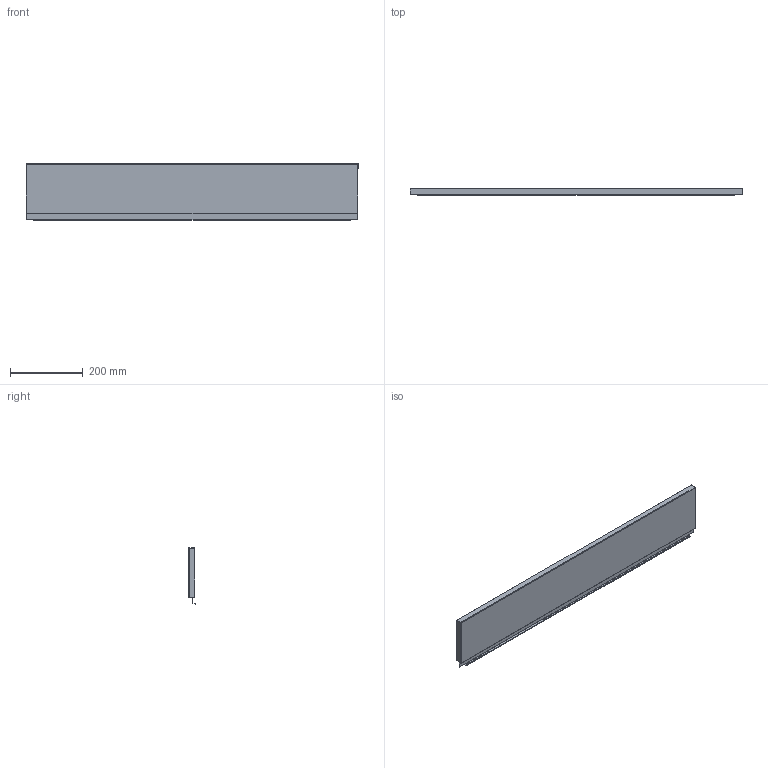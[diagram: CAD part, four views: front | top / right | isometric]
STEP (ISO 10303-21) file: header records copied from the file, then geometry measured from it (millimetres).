
FILE_DESCRIPTION (( 'STEP AP214' ), '1' );
FILE_NAME ('_STRW_H154_KAB_1000.step', '2010-08-24T14:40:40', ( 'grass' ), ( '' ), 'SwSTEP 2.0', 'SolidWorks 2009', '' );
FILE_SCHEMA (( 'AUTOMOTIVE_DESIGN' ));
Length unit declared in the file: millimetre
Products named in the file (1): _STRW_H154_KAB_1000
Bounding box: 910 x 17 x 154.14 mm (x, y, z)
Volume: 135823.9 mm3; surface area: 341384 mm2
Topology: 1 solids, 1 shells, 76 faces, 214 edges, 140 vertices
Faces by surface type: plane 54, cylinder 22
Entity records: 2472 total; most frequent: CARTESIAN_POINT 431, ORIENTED_EDGE 428, DIRECTION 412, EDGE_CURVE 214, LINE 170, VECTOR 170, VERTEX_POINT 140, AXIS2_PLACEMENT_3D 121
